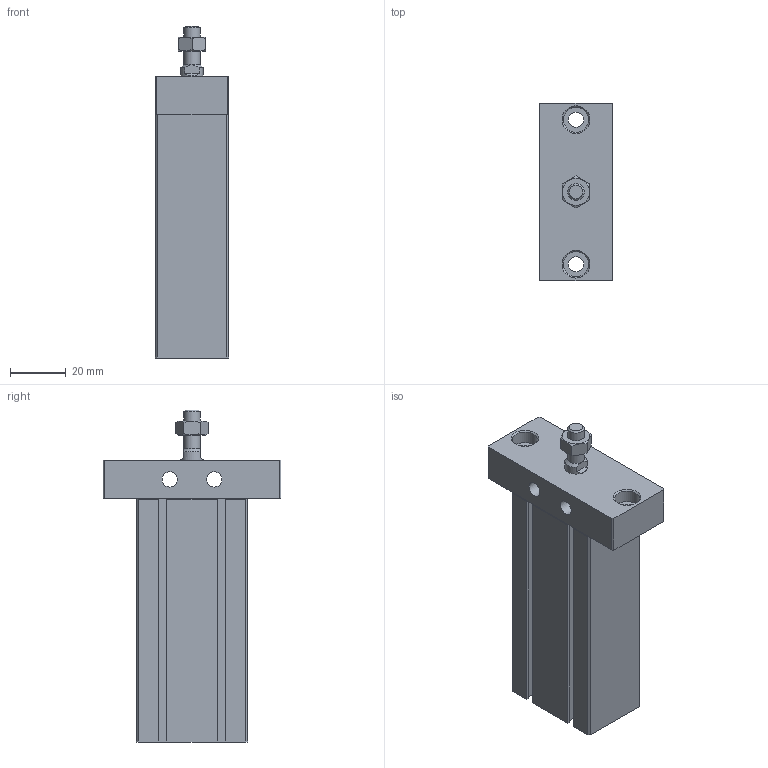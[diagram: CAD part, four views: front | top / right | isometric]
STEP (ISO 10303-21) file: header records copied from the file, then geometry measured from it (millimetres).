
FILE_DESCRIPTION((''),'2;1');
FILE_NAME('J:\3D電子目錄\氣缸\ND\ND\ND20-FBS\ND20x50-FBS.stp','2008-03-13T09:47:22',('66-2f-008'),(''),'Autodesk Inventor 11','Autodesk Inventor 11','');
FILE_SCHEMA(('AUTOMOTIVE_DESIGN { 1 0 10303 214 1 1 1 1 }'));
Length unit declared in the file: millimetre
Products named in the file (1): ND20-FBS
Bounding box: 26.4 x 64 x 119.5 mm (x, y, z)
Volume: 104987.7 mm3; surface area: 24989.2 mm2
Topology: 2 solids, 2 shells, 128 faces, 330 edges, 211 vertices
Faces by surface type: plane 85, cylinder 16, bspline 14, cone 12, torus 1
Full cylindrical faces by diameter (mm): 1.5 x2, 5.5 x2, 6 x2, 9 x2, 13 x1, 21 x1
Entity records: 3810 total; most frequent: CARTESIAN_POINT 843, ORIENTED_EDGE 588, DIRECTION 572, EDGE_CURVE 294, VECTOR 214, LINE 214, VERTEX_POINT 206, EDGE_LOOP 180
